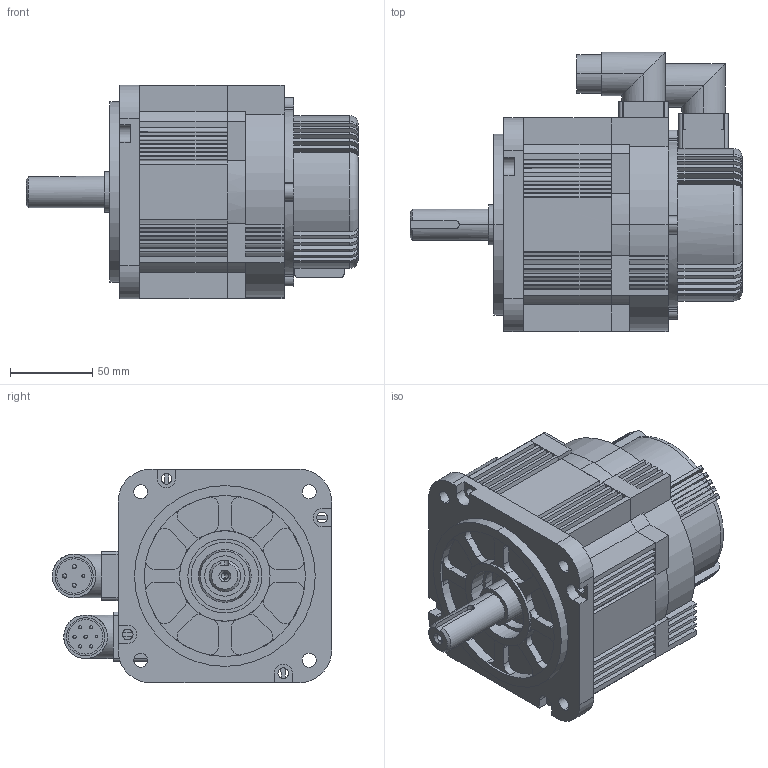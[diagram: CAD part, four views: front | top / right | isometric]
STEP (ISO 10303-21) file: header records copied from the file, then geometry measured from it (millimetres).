
FILE_DESCRIPTION (( 'STEP AP203' ), '1' );
FILE_NAME ('ACM13009H2F.STEP', '2021-04-02T09:16:50', ( '謂矨栲' ), ( 'Microsoft' ), 'SwSTEP 2.0', 'SolidWorks 2014', '' );
FILE_SCHEMA (( 'CONFIG_CONTROL_DESIGN' ));
Length unit declared in the file: millimetre
Products named in the file (1): ACM13009H2F
Bounding box: 202 x 170 x 130 mm (x, y, z)
Volume: 1882769.4 mm3; surface area: 171153.6 mm2
Topology: 1 solids, 1 shells, 787 faces, 2217 edges, 1427 vertices
Faces by surface type: plane 458, cylinder 270, torus 31, sphere 11, bspline 9, cone 8
Entity records: 26744 total; most frequent: CARTESIAN_POINT 6140, ORIENTED_EDGE 4342, DIRECTION 4313, EDGE_CURVE 2171, AXIS2_PLACEMENT_3D 1454, VECTOR 1405, VERTEX_POINT 1405, LINE 1405
